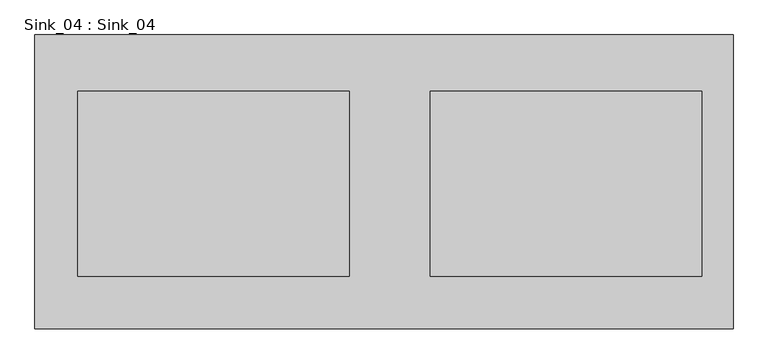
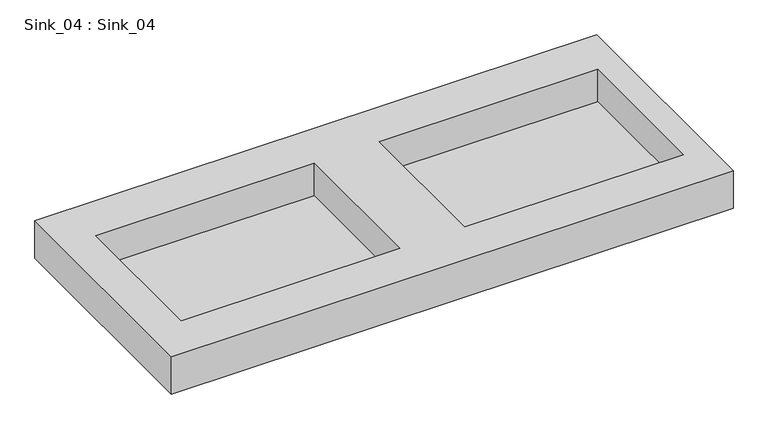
"""IFC4 building model written with IfcOpenShell, lengths in millimetres: flow terminal geometry, Sink_04 : Sink_04."""

from ifc_helpers import new_model, si_unit, origin, place, context, project, spatial, faceted_brep, source, transform, mapped, element, save


def sink_04_sink_04_ce592024(model_context):
    return source(origin(), model_context, "Body", "Brep", [
        faceted_brep([(3342.2536417, 10613.8615062, 8984.0389404), (2056.9383689, 10613.8615062, 8984.0389404), (2056.9383689, 10072.4791456, 8984.0389404), (3342.2536417, 10072.4791456, 8984.0389404), (2135.6282839, 10509.8139768, 8984.0389404), (2635.6282839, 10509.8139768, 8984.0389404), (2635.6282839, 10169.8139768, 8984.0389404), (2135.6282839, 10169.8139768, 8984.0389404), (2784.7682941, 10169.8139768, 8984.0389404), (2784.7682941, 10509.8139768, 8984.0389404), (3284.7682941, 10509.8139768, 8984.0389404), (3284.7682941, 10169.8139768, 8984.0389404), (3342.2536417, 10613.8615062, 8893.4345501), (3342.2536417, 10072.4791456, 8893.4345501), (2056.9383689, 10072.4791456, 8893.4345501), (2056.9383689, 10613.8615062, 8893.4345501), (2635.6282839, 10509.8139768, 8905.8545397), (2135.6282839, 10509.8139768, 8905.8545397), (2135.6282839, 10169.8139768, 8905.8545397), (2635.6282839, 10169.8139768, 8905.8545397), (2784.7682941, 10509.8139768, 8905.8545397), (2784.7682941, 10169.8139768, 8905.8545397), (3284.7682941, 10169.8139768, 8905.8545397), (3284.7682941, 10509.8139768, 8905.8545397)], [[[0, 1, 2, 3], [4, 5, 6, 7], [8, 9, 10, 11]], [[12, 13, 14, 15]], [[1, 0, 12, 15]], [[2, 1, 15, 14]], [[3, 2, 14, 13]], [[0, 3, 13, 12]], [[16, 17, 18, 19]], [[20, 21, 22, 23]], [[17, 16, 5, 4]], [[18, 17, 4, 7]], [[19, 18, 7, 6]], [[16, 19, 6, 5]], [[21, 20, 9, 8]], [[22, 21, 8, 11]], [[23, 22, 11, 10]], [[20, 23, 10, 9]]]),
    ])


if __name__ == "__main__":
    model = new_model("IFC4")
    model_context = context("Model", 3, world=origin())
    ifc_project = project(units=[si_unit("LENGTHUNIT", "METRE", prefix="MILLI")], contexts=[model_context])
    site = spatial("IfcSite", under=ifc_project)
    building = spatial("IfcBuilding", under=site)
    placement = place(None, origin())
    sink_04_sink_04_shape = sink_04_sink_04_ce592024(model_context)
    element("IfcFlowTerminal", 1, ObjectType="Sink_04 : Sink_04", at=placement, inside=building, context=model_context, shape_type="MappedRepresentation", body=[
        mapped(sink_04_sink_04_shape, transform((0.0, 0.0, 0.0), x_axis=(1.0, 0.0, 0.0), y_axis=(0.0, 1.0, 0.0), z_axis=(0.0, 0.0, 1.0))),
    ])
    save(model, "model.ifc")
